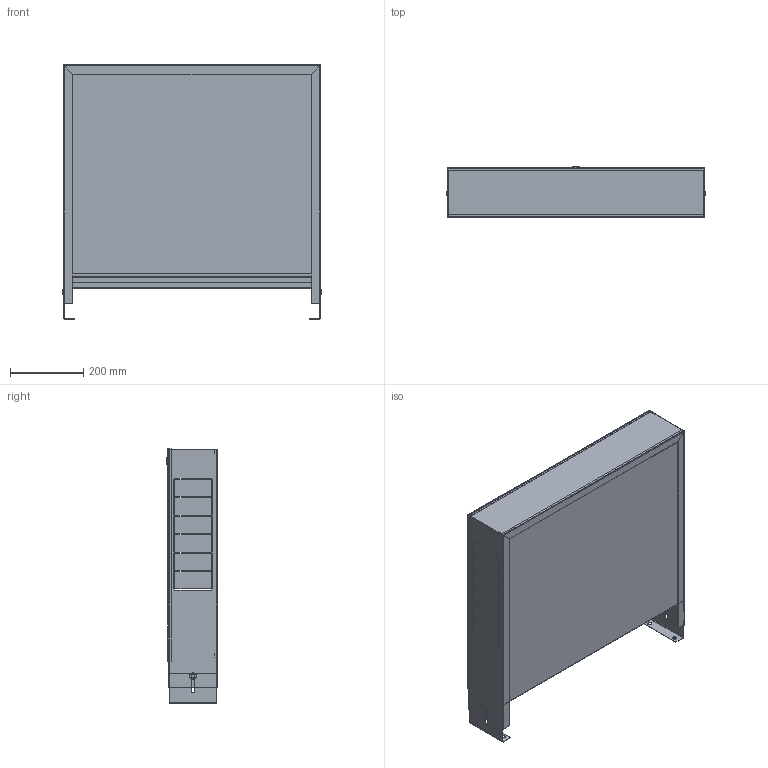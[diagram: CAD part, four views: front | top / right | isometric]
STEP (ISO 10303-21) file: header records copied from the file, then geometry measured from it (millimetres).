
FILE_DESCRIPTION(('TFLEX Exchange Step'),'2;1');
FILE_NAME('Manifold cabinet VTc.541.D.03 Valtec.stp', '2023-10-11T14:13:02+03:00',('denis'),('Unknown organisation'),'TFLEX Exchange 2023.0','T-FLEX CAD','Unknown authorisation');
FILE_SCHEMA( ('AUTOMOTIVE_DESIGN { 1 0 10303 214 1 1 1 1 }') );
Length unit declared in the file: millimetre
Products named in the file (1): Nodes
Bounding box: 709 x 139.9 x 695 mm (x, y, z)
Volume: 1016409.5 mm3; surface area: 2460366.1 mm2
Topology: 9 solids, 10 shells, 504 faces, 1335 edges, 859 vertices
Faces by surface type: plane 372, cylinder 87, cone 31, bspline 12, torus 2
Full cylindrical faces by diameter (mm): 6 x4, 6.4 x2, 7 x2, 10 x5, 12 x1, 16 x1, 18 x2, 20 x2
Entity records: 18079 total; most frequent: CARTESIAN_POINT 5474, ORIENTED_EDGE 2670, DIRECTION 2391, EDGE_CURVE 1335, VECTOR 1009, LINE 1009, VERTEX_POINT 859, AXIS2_PLACEMENT_3D 691
